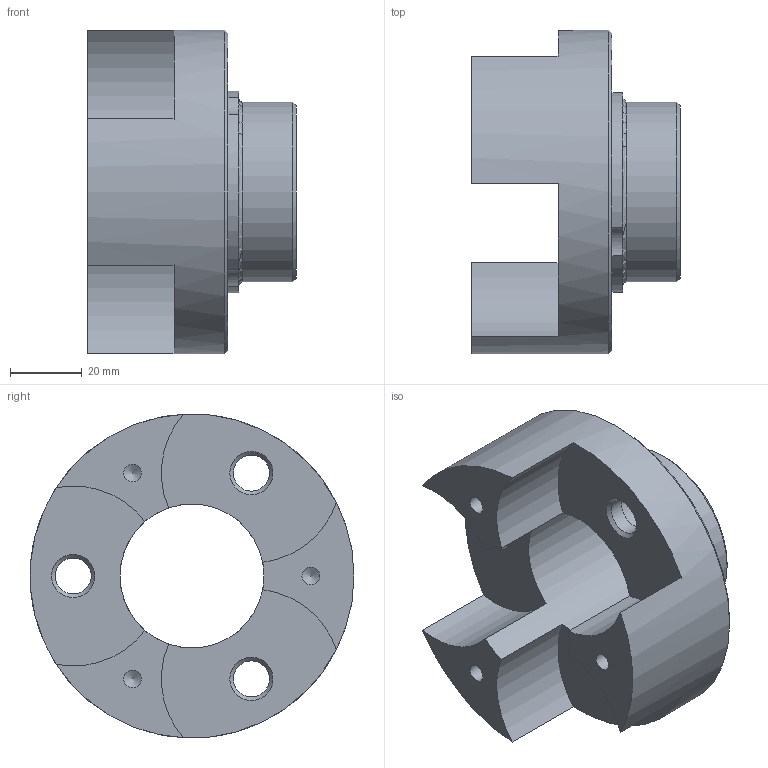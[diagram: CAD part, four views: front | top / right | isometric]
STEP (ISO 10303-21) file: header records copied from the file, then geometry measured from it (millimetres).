
FILE_DESCRIPTION(/* description */ (''),/* implementation_level */ '2;1');
FILE_NAME(/* name */ '',/* time_stamp */ '2026-05-18T10:00:22+09:00',/* author */ ('jhkim'),/* organization */ (''),/* preprocessor_version */ 'ST-DEVELOPER v20.1',/* originating_system */ 'Autodesk Inventor 2027',/* authorisation */ '');
FILE_SCHEMA (('AUTOMOTIVE_DESIGN { 1 0 10303 214 3 1 1 }'));
Length unit declared in the file: millimetre
Products named in the file (1): 유성 캐리어
Bounding box: 58 x 90 x 90 mm (x, y, z)
Volume: 119885.2 mm3; surface area: 30982.6 mm2
Topology: 1 solids, 1 shells, 44 faces, 123 edges, 81 vertices
Faces by surface type: cylinder 21, plane 14, cone 8, torus 1
Full cylindrical faces by diameter (mm): 4.917 x3, 10 x3, 14.2 x3, 40 x1, 50 x1, 90 x1
Entity records: 1531 total; most frequent: CARTESIAN_POINT 286, DIRECTION 280, ORIENTED_EDGE 240, AXIS2_PLACEMENT_3D 121, EDGE_CURVE 120, VERTEX_POINT 81, CIRCLE 76, EDGE_LOOP 55
